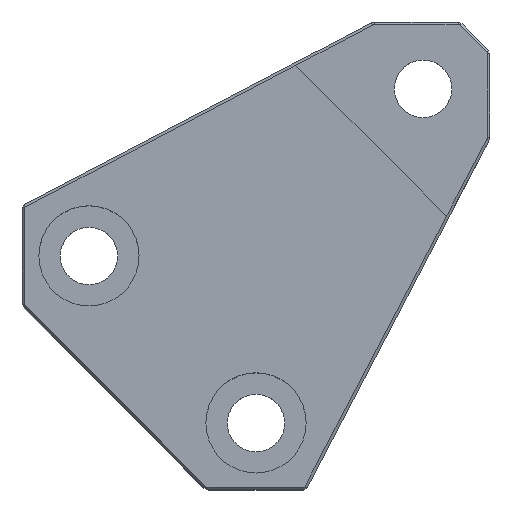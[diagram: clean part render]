
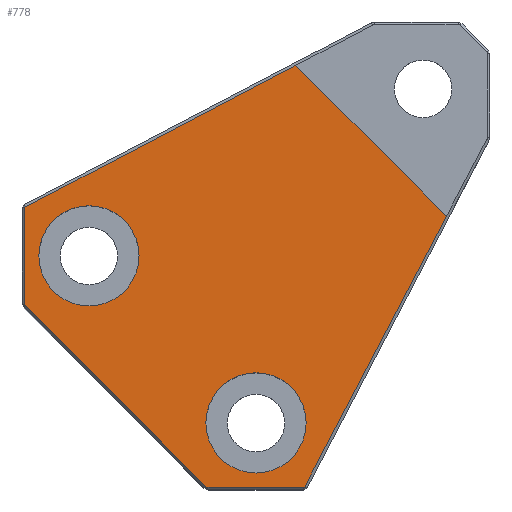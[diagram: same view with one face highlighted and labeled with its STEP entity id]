
A CAD part, top view. The second image highlights one B-rep face of the part: STEP entity #778.
In plain terms, the highlighted planar face has unit normal (0, 0, 1).
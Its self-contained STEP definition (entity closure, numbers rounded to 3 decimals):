
#28=FACE_BOUND('',#143,.T.);
#29=FACE_BOUND('',#144,.T.);
#40=CIRCLE('',#856,3.75);
#41=CIRCLE('',#858,3.75);
#88=FACE_OUTER_BOUND('',#142,.T.);
#142=EDGE_LOOP('',(#683,#684,#685,#686,#687,#688));
#143=EDGE_LOOP('',(#689));
#144=EDGE_LOOP('',(#690));
#170=LINE('',#1128,#260);
#172=LINE('',#1131,#262);
#174=LINE('',#1134,#264);
#176=LINE('',#1137,#266);
#180=LINE('',#1144,#270);
#230=LINE('',#1256,#320);
#260=VECTOR('',#906,10.);
#262=VECTOR('',#910,10.);
#264=VECTOR('',#914,10.);
#266=VECTOR('',#918,10.);
#270=VECTOR('',#924,10.);
#320=VECTOR('',#1038,10.);
#326=VERTEX_POINT('',#1074);
#331=VERTEX_POINT('',#1087);
#336=VERTEX_POINT('',#1100);
#341=VERTEX_POINT('',#1113);
#346=VERTEX_POINT('',#1126);
#347=VERTEX_POINT('',#1140);
#383=VERTEX_POINT('',#1272);
#384=VERTEX_POINT('',#1276);
#410=EDGE_CURVE('',#346,#341,#170,.T.);
#412=EDGE_CURVE('',#341,#336,#172,.T.);
#414=EDGE_CURVE('',#336,#331,#174,.T.);
#416=EDGE_CURVE('',#331,#326,#176,.T.);
#420=EDGE_CURVE('',#326,#347,#180,.T.);
#476=EDGE_CURVE('',#346,#347,#230,.T.);
#483=EDGE_CURVE('',#383,#383,#40,.T.);
#485=EDGE_CURVE('',#384,#384,#41,.T.);
#683=ORIENTED_EDGE('',*,*,#410,.F.);
#684=ORIENTED_EDGE('',*,*,#476,.T.);
#685=ORIENTED_EDGE('',*,*,#420,.F.);
#686=ORIENTED_EDGE('',*,*,#416,.F.);
#687=ORIENTED_EDGE('',*,*,#414,.F.);
#688=ORIENTED_EDGE('',*,*,#412,.F.);
#689=ORIENTED_EDGE('',*,*,#485,.T.);
#690=ORIENTED_EDGE('',*,*,#483,.T.);
#731=PLANE('',#860);
#778=ADVANCED_FACE('',(#88,#28,#29),#731,.T.);
#856=AXIS2_PLACEMENT_3D('',#1273,#1059,#1060);
#858=AXIS2_PLACEMENT_3D('',#1277,#1064,#1065);
#860=AXIS2_PLACEMENT_3D('',#1280,#1069,#1070);
#906=DIRECTION('',(-0.464,-0.886,0.));
#910=DIRECTION('',(-1.,0.,0.));
#914=DIRECTION('',(-0.707,0.707,0.));
#918=DIRECTION('',(0.,1.,0.));
#924=DIRECTION('',(0.886,0.464,0.));
#1038=DIRECTION('',(-0.707,0.707,0.));
#1059=DIRECTION('center_axis',(0.,0.,-1.));
#1060=DIRECTION('ref_axis',(-1.,0.,0.));
#1064=DIRECTION('center_axis',(0.,0.,-1.));
#1065=DIRECTION('ref_axis',(-1.,0.,0.));
#1069=DIRECTION('center_axis',(0.,0.,1.));
#1070=DIRECTION('ref_axis',(1.,0.,0.));
#1074=CARTESIAN_POINT('',(-17.3,3.629,12.));
#1087=CARTESIAN_POINT('',(-17.3,-3.667,12.));
#1100=CARTESIAN_POINT('',(-3.667,-17.3,12.));
#1113=CARTESIAN_POINT('',(3.629,-17.3,12.));
#1126=CARTESIAN_POINT('',(14.248,2.973,12.));
#1128=CARTESIAN_POINT('',(6.28,-12.239,12.));
#1131=CARTESIAN_POINT('',(-2.651,-17.3,12.));
#1134=CARTESIAN_POINT('',(-13.921,-7.046,12.));
#1137=CARTESIAN_POINT('',(-17.3,1.099,12.));
#1140=CARTESIAN_POINT('',(2.973,14.248,12.));
#1144=CARTESIAN_POINT('',(-2.077,11.603,12.));
#1256=CARTESIAN_POINT('',(15.872,1.349,12.));
#1272=CARTESIAN_POINT('',(3.75,-12.5,12.));
#1273=CARTESIAN_POINT('Origin',(0.,-12.5,12.));
#1276=CARTESIAN_POINT('',(-8.75,0.,12.));
#1277=CARTESIAN_POINT('Origin',(-12.5,0.,12.));
#1280=CARTESIAN_POINT('Origin',(-1.552,-1.552,12.));
